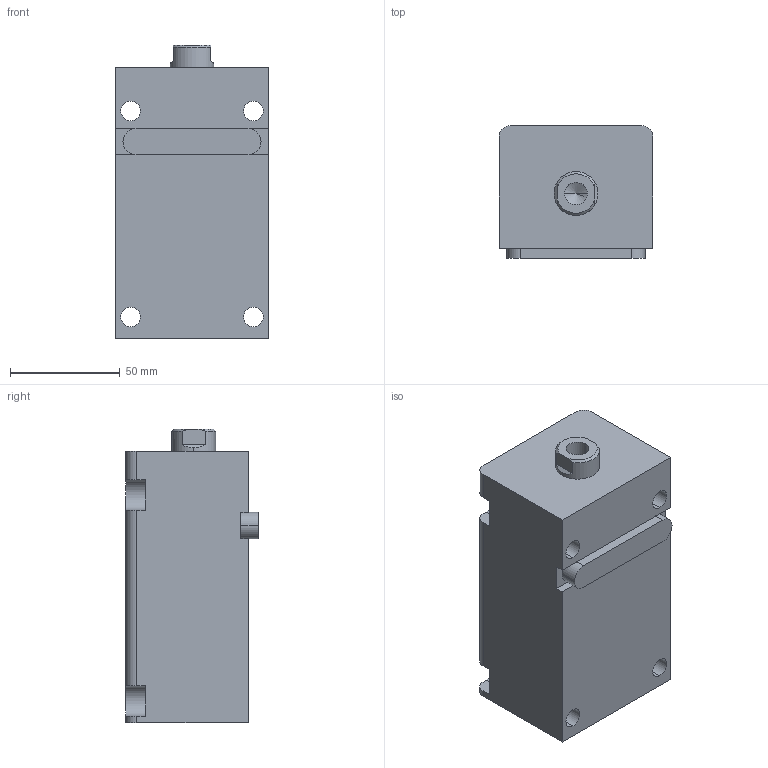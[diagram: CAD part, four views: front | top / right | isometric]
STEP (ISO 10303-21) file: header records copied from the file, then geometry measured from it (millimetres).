
FILE_DESCRIPTION (( 'STEP AP203' ), '1' );
FILE_NAME ('HTB-LA32-70N.STEP', '2019-10-09T06:30:15', ( '微软用户' ), ( '微软中国' ), 'SwSTEP 2.0', 'SolidWorks 2012', '' );
FILE_SCHEMA (( 'CONFIG_CONTROL_DESIGN' ));
Length unit declared in the file: millimetre
Products named in the file (4): HTB-LA32-70N; HTB-LA32-70掛极; HTB-LA32-70N活塞杆; HTB-LA32-瑩
Assembly tree (3 placements, depth 2):
  HTB-LA32-70N
    HTB-LA32-70掛极
    HTB-LA32-70N活塞杆
    HTB-LA32-瑩
Bounding box: 70 x 60.5 x 134 mm (x, y, z)
Volume: 434990.4 mm3; surface area: 69774.6 mm2
Topology: 3 solids, 3 shells, 88 faces, 217 edges, 141 vertices
Faces by surface type: plane 39, cylinder 35, cone 8, torus 6
Entity records: 3053 total; most frequent: DIRECTION 487, CARTESIAN_POINT 478, ORIENTED_EDGE 430, EDGE_CURVE 215, AXIS2_PLACEMENT_3D 186, VERTEX_POINT 141, LINE 115, VECTOR 115
